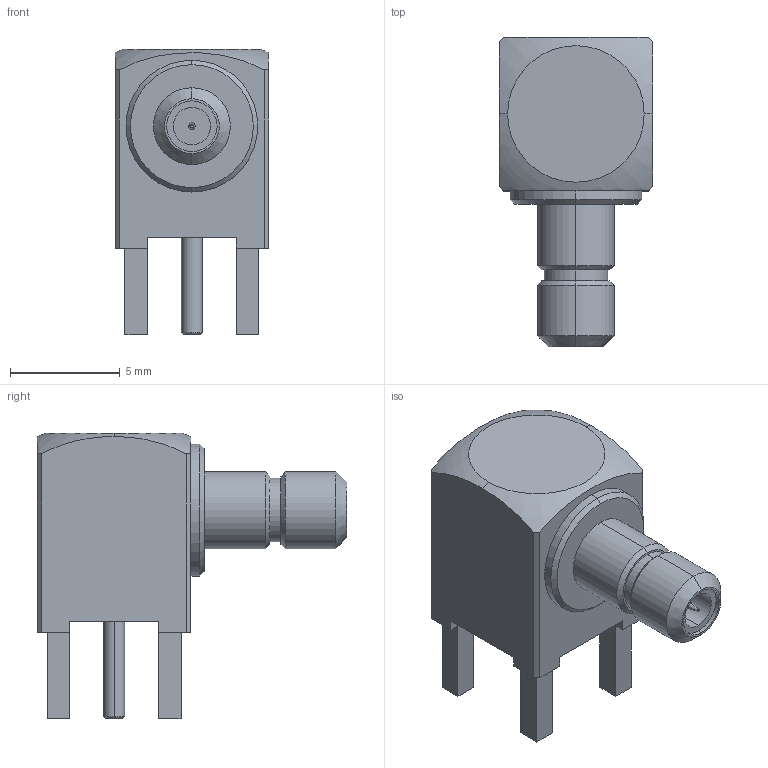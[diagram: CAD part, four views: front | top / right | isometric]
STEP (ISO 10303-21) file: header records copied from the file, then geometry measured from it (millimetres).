
FILE_DESCRIPTION (( 'STEP AP214' ), '1' );
FILE_NAME ('SMB-TH_CONSMB002-G.STEP', '2023-02-18T10:11:23', ( '' ), ( '' ), 'SwSTEP 2.0', 'SolidWorks 2020', '' );
FILE_SCHEMA (( 'AUTOMOTIVE_DESIGN' ));
Length unit declared in the file: millimetre
Products named in the file (1): SMB-TH_CONSMB002-G
Bounding box: 7.01 x 14.1 x 13 mm (x, y, z)
Volume: 502.1 mm3; surface area: 525.3 mm2
Topology: 1 solids, 1 shells, 299 faces, 795 edges, 526 vertices
Faces by surface type: plane 169, bspline 98, cylinder 18, cone 12, torus 2
Entity records: 13106 total; most frequent: CARTESIAN_POINT 2993, ORIENTED_EDGE 1590, DIRECTION 1041, EDGE_CURVE 795, VECTOR 533, LINE 533, VERTEX_POINT 526, EDGE_LOOP 327
